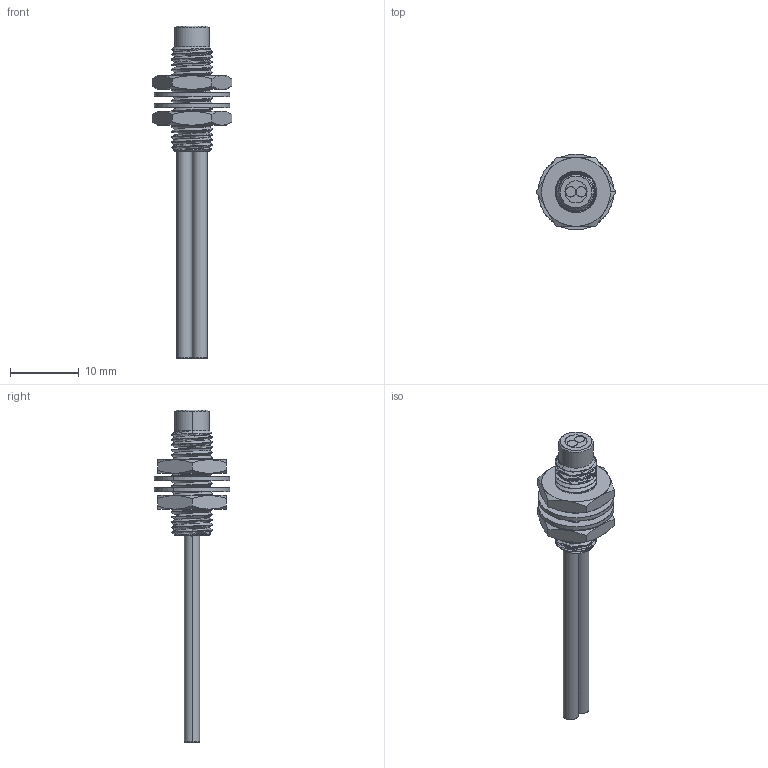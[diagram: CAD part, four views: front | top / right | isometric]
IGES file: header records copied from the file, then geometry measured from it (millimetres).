
Start section: SolidWorks IGES file using analytic representation for surfaces
Bounding box: 11.55 x 11 x 48.2 mm (x, y, z)
Surface area: 1702.7 mm2 (no closed solid volume)
Topology: 0 solids, 0 shells, 216 faces, 3039 edges, 3038 vertices
Faces by surface type: revolution 143, bspline 73
